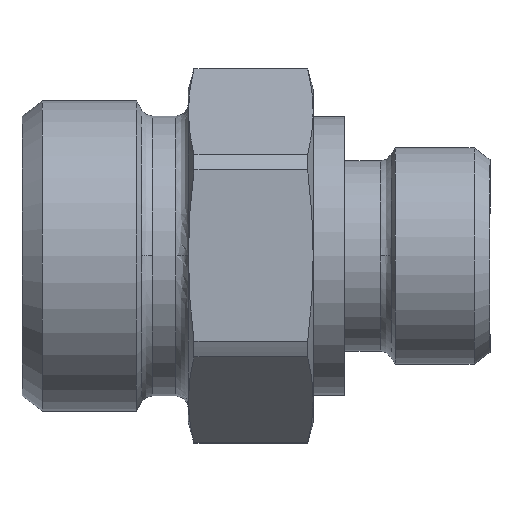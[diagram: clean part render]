
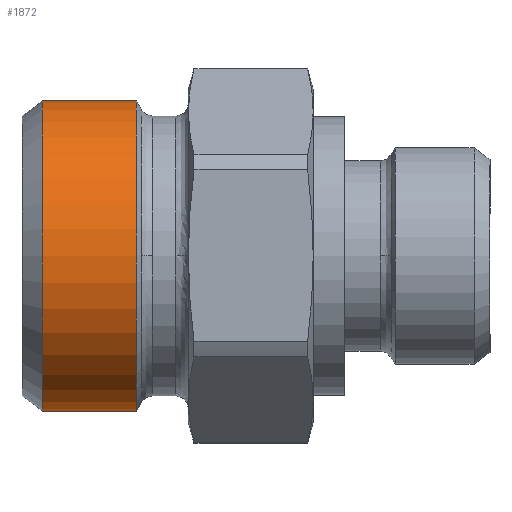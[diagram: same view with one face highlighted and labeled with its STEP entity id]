
A CAD part, top view. The second image highlights one B-rep face of the part: STEP entity #1872.
In plain terms, the highlighted cylindrical face has radius 14.91 mm (diameter 29.82 mm), a partial arc.
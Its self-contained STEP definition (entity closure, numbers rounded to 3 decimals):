
#908=CARTESIAN_POINT('',(0.,-14.91,20.063));
#909=VERTEX_POINT('',#908);
#910=CARTESIAN_POINT('',(0.,-14.91,10.993));
#911=VERTEX_POINT('',#910);
#912=CARTESIAN_POINT('',(0.,-14.91,20.063));
#913=DIRECTION('',(0.0,0.0,-1.0));
#914=VECTOR('',#913,9.07);
#915=LINE('',#912,#914);
#916=EDGE_CURVE('',#909,#911,#915,.T.);
#918=CARTESIAN_POINT('',(0.,14.91,20.063));
#919=VERTEX_POINT('',#918);
#927=CARTESIAN_POINT('',(0.,14.91,10.993));
#928=VERTEX_POINT('',#927);
#929=CARTESIAN_POINT('',(0.,14.91,10.993));
#930=DIRECTION('',(0.0,0.0,1.0));
#931=VECTOR('',#930,9.07);
#932=LINE('',#929,#931);
#933=EDGE_CURVE('',#928,#919,#932,.T.);
#1748=CARTESIAN_POINT('',(0.,0.,10.993));
#1749=DIRECTION('',(0.0,0.0,-1.0));
#1750=DIRECTION('',(0.0,-1.0,0.0));
#1751=AXIS2_PLACEMENT_3D('',#1748,#1749,#1750);
#1752=CIRCLE('',#1751,14.91);
#1753=EDGE_CURVE('',#928,#911,#1752,.T.);
#1849=CARTESIAN_POINT('',(0.,0.,20.063));
#1850=DIRECTION('',(0.0,0.0,-1.0));
#1851=DIRECTION('',(0.0,-1.0,0.0));
#1852=AXIS2_PLACEMENT_3D('',#1849,#1850,#1851);
#1853=CIRCLE('',#1852,14.91);
#1854=EDGE_CURVE('',#919,#909,#1853,.T.);
#1861=CARTESIAN_POINT('',(0.,0.,15.528));
#1862=DIRECTION('',(0.,0.,-1.0));
#1863=DIRECTION('',(0.0,-1.0,0.0));
#1864=AXIS2_PLACEMENT_3D('',#1861,#1862,#1863);
#1865=CYLINDRICAL_SURFACE('',#1864,14.91);
#1866=ORIENTED_EDGE('',*,*,#916,.T.);
#1867=ORIENTED_EDGE('',*,*,#1753,.F.);
#1868=ORIENTED_EDGE('',*,*,#933,.T.);
#1869=ORIENTED_EDGE('',*,*,#1854,.T.);
#1870=EDGE_LOOP('',(#1866,#1867,#1868,#1869));
#1871=FACE_OUTER_BOUND('',#1870,.T.);
#1872=ADVANCED_FACE('',(#1871),#1865,.T.);
